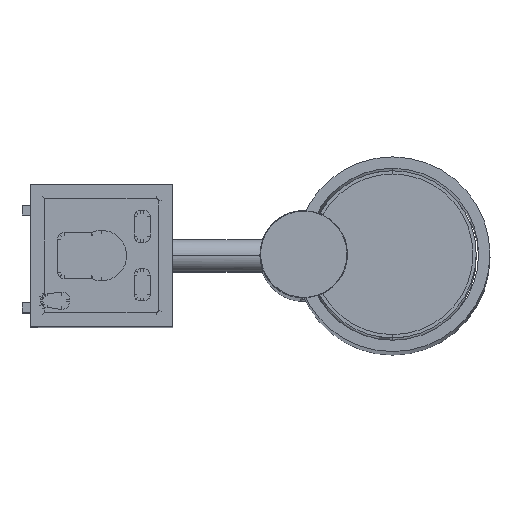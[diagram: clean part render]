
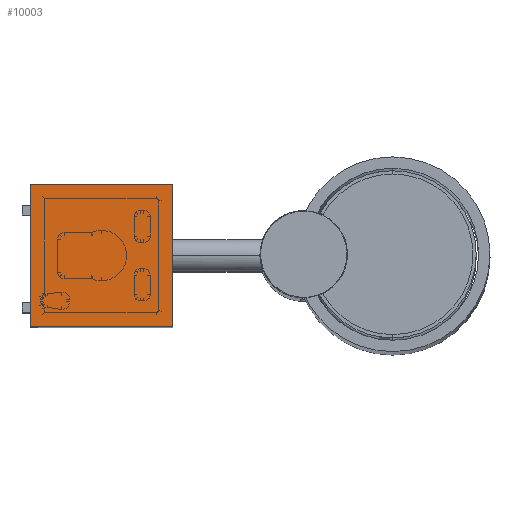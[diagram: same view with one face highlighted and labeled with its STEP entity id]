
A CAD part, top view. The second image highlights one B-rep face of the part: STEP entity #10003.
In plain terms, the highlighted planar face has unit normal (0, 0, 1).
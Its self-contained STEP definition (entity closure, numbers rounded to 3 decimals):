
#786 = ORIENTED_EDGE ( 'NONE', *, *, #4580, .T. ) ;
#1156 = CARTESIAN_POINT ( 'NONE',  ( -0.454, 23., 74. ) ) ;
#1202 = VECTOR ( 'NONE', #4301, 1000. ) ;
#1295 = VECTOR ( 'NONE', #7588, 1000. ) ;
#1698 = ORIENTED_EDGE ( 'NONE', *, *, #6635, .T. ) ;
#2108 = VERTEX_POINT ( 'NONE', #11991 ) ;
#3036 = DIRECTION ( 'NONE',  ( -1., 0., 0. ) ) ;
#3126 = AXIS2_PLACEMENT_3D ( 'NONE', #9743, #13633, #5915 ) ;
#4040 = VECTOR ( 'NONE', #16589, 1000. ) ;
#4301 = DIRECTION ( 'NONE',  ( 1., 0., 0. ) ) ;
#4580 = EDGE_CURVE ( 'NONE', #2108, #15073, #13766, .T. ) ;
#5130 = EDGE_LOOP ( 'NONE', ( #786, #5578, #6477, #1698 ) ) ;
#5578 = ORIENTED_EDGE ( 'NONE', *, *, #15431, .T. ) ;
#5915 = DIRECTION ( 'NONE',  ( 0., 1., 0. ) ) ;
#6477 = ORIENTED_EDGE ( 'NONE', *, *, #6831, .T. ) ;
#6635 = EDGE_CURVE ( 'NONE', #7156, #2108, #11312, .T. ) ;
#6831 = EDGE_CURVE ( 'NONE', #13011, #7156, #11510, .T. ) ;
#6868 = CARTESIAN_POINT ( 'NONE',  ( 43.503, -20.974, 74. ) ) ;
#7156 = VERTEX_POINT ( 'NONE', #15444 ) ;
#7588 = DIRECTION ( 'NONE',  ( 0., -1., 0. ) ) ;
#8948 = CARTESIAN_POINT ( 'NONE',  ( -0.454, 22.977, 74. ) ) ;
#9743 = CARTESIAN_POINT ( 'NONE',  ( 43.5, 23., 74. ) ) ;
#10003 = ADVANCED_FACE ( 'NONE', ( #12651 ), #12347, .F. ) ;
#10349 = VECTOR ( 'NONE', #3036, 1000. ) ;
#10713 = CARTESIAN_POINT ( 'NONE',  ( 43.5, 22.974, 74. ) ) ;
#11312 = LINE ( 'NONE', #13998, #4040 ) ;
#11510 = LINE ( 'NONE', #6868, #1202 ) ;
#11679 = CARTESIAN_POINT ( 'NONE',  ( -0.454, -20.977, 74. ) ) ;
#11991 = CARTESIAN_POINT ( 'NONE',  ( 43.5, 22.974, 74. ) ) ;
#12347 = PLANE ( 'NONE',  #3126 ) ;
#12651 = FACE_OUTER_BOUND ( 'NONE', #5130, .T. ) ;
#13011 = VERTEX_POINT ( 'NONE', #11679 ) ;
#13633 = DIRECTION ( 'NONE',  ( 0., 0., -1. ) ) ;
#13766 = LINE ( 'NONE', #10713, #10349 ) ;
#13998 = CARTESIAN_POINT ( 'NONE',  ( 43.5, 23., 74. ) ) ;
#15018 = LINE ( 'NONE', #1156, #1295 ) ;
#15073 = VERTEX_POINT ( 'NONE', #8948 ) ;
#15431 = EDGE_CURVE ( 'NONE', #15073, #13011, #15018, .T. ) ;
#15444 = CARTESIAN_POINT ( 'NONE',  ( 43.5, -20.974, 74. ) ) ;
#16589 = DIRECTION ( 'NONE',  ( 0., 1., 0. ) ) ;
